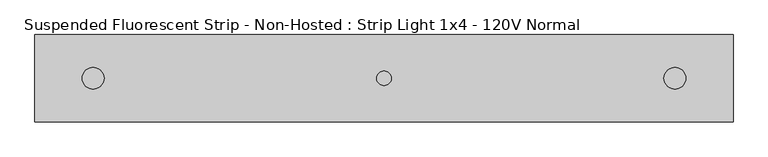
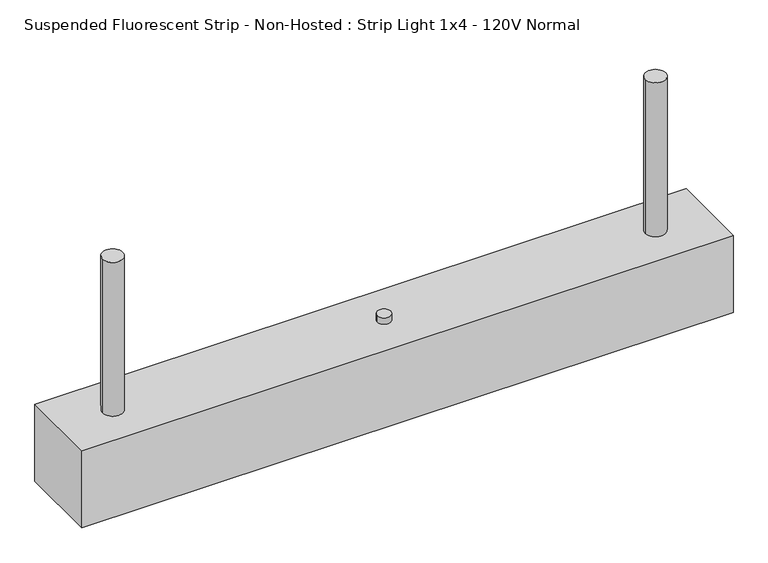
"""IFC4 building model written with IfcOpenShell, lengths in millimetres: light fixture geometry, Suspended Fluorescent Strip - Non-Hosted : Strip Light 1x4 - 120V Normal."""

from ifc_helpers import new_model, si_unit, point, frame, frame_2d, origin, origin_with_axes, origin_2d, place, context, project, spatial, polyline, circle_curve, trimmed, segment, composite_curve, outline, extrude, source, transform, mapped, element, save


def suspended_fluorescent_strip_non_hosted_strip_light_1x4_120v_4ea4ccb3(model_context):
    return source(origin(), model_context, "Body", "SweptSolid", [
        extrude(outline(composite_curve([segment(trimmed(circle_curve(frame_2d((508.0, 0.0)), 19.05), [point((527.05, 0.0))], [point((488.95, 0.0))], False, "CARTESIAN"), True, "CONTINUOUS"), segment(trimmed(circle_curve(frame_2d((508.0, 0.0)), 19.05), [point((488.95, 0.0))], [point((527.05, 0.0))], False, "CARTESIAN"), True, "CONTINUOUS")], self_intersect=False)), frame((0.0, 0.0, 152.4), z_axis=(0.0, 0.0, 1.0), x_axis=(1.0, 0.0, 0.0)), (0.0, 0.0, 1.0), 304.8),
        extrude(outline(composite_curve([segment(trimmed(circle_curve(frame_2d((-508.0, 0.0)), 19.05), [point((-488.95, 0.0))], [point((-527.05, 0.0))], False, "CARTESIAN"), True, "CONTINUOUS"), segment(trimmed(circle_curve(frame_2d((-508.0, 0.0)), 19.05), [point((-527.05, 0.0))], [point((-488.95, 0.0))], False, "CARTESIAN"), True, "CONTINUOUS")], self_intersect=False)), frame((0.0, 0.0, 152.4), z_axis=(0.0, 0.0, 1.0), x_axis=(1.0, 0.0, 0.0)), (0.0, 0.0, 1.0), 304.8),
        extrude(outline(composite_curve([segment(trimmed(circle_curve(origin_2d(), 12.7), [point((-12.7, 0.0))], [point((12.7, 0.0))], False, "CARTESIAN"), True, "CONTINUOUS"), segment(trimmed(circle_curve(origin_2d(), 12.7), [point((12.7, 0.0))], [point((-12.7, 0.0))], False, "CARTESIAN"), True, "CONTINUOUS")], self_intersect=False)), frame((0.0, 0.0, 152.4), z_axis=(0.0, 0.0, 1.0), x_axis=(1.0, 0.0, 0.0)), (0.0, 0.0, 1.0), 12.7),
        extrude(outline(polyline([(609.6, -76.2), (-609.6, -76.2), (-609.6, 76.2), (609.6, 76.2), (609.6, -76.2)])), origin_with_axes(), (0.0, 0.0, 1.0), 152.4),
    ])


if __name__ == "__main__":
    model = new_model("IFC4")
    model_context = context("Model", 3, world=origin())
    ifc_project = project(units=[si_unit("LENGTHUNIT", "METRE", prefix="MILLI")], contexts=[model_context])
    site = spatial("IfcSite", under=ifc_project)
    building = spatial("IfcBuilding", under=site)
    placement = place(None, origin())
    suspended_fluorescent_strip_non_hosted_strip_light_1x4_120v_shape = suspended_fluorescent_strip_non_hosted_strip_light_1x4_120v_4ea4ccb3(model_context)
    element("IfcLightFixture", 1, ObjectType="Suspended Fluorescent Strip - Non-Hosted : Strip Light 1x4 - 120V Normal", at=placement, inside=building, context=model_context, shape_type="MappedRepresentation", body=[
        mapped(suspended_fluorescent_strip_non_hosted_strip_light_1x4_120v_shape, transform((0.0, 0.0, 0.0), x_axis=(1.0, 0.0, 0.0), y_axis=(0.0, 1.0, 0.0), z_axis=(0.0, 0.0, 1.0))),
    ])
    save(model, "model.ifc")
